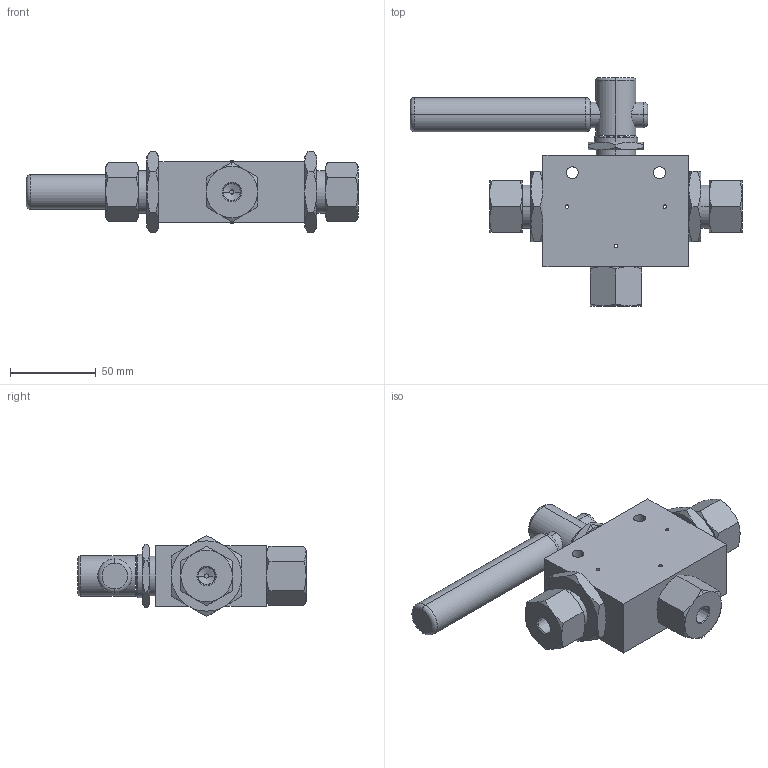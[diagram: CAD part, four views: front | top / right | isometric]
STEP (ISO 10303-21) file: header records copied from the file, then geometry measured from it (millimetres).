
FILE_DESCRIPTION (( 'STEP AP203' ), '1' );
FILE_NAME ('BVN05S02-3-180.STEP', '2022-04-07T10:05:56', ( '' ), ( '' ), 'SwSTEP 2.0', 'SolidWorks 2020', '' );
FILE_SCHEMA (( 'CONFIG_CONTROL_DESIGN' ));
Length unit declared in the file: millimetre
Products named in the file (1): BVN05S02-3-180
Bounding box: 193.5 x 133 x 47.34 mm (x, y, z)
Volume: 315329.3 mm3; surface area: 48035.4 mm2
Topology: 1 solids, 1 shells, 207 faces, 462 edges, 272 vertices
Faces by surface type: cone 96, plane 65, cylinder 38, torus 8
Entity records: 6621 total; most frequent: CARTESIAN_POINT 2098, ORIENTED_EDGE 924, DIRECTION 918, EDGE_CURVE 462, AXIS2_PLACEMENT_3D 400, VERTEX_POINT 272, EDGE_LOOP 236, ADVANCED_FACE 207
